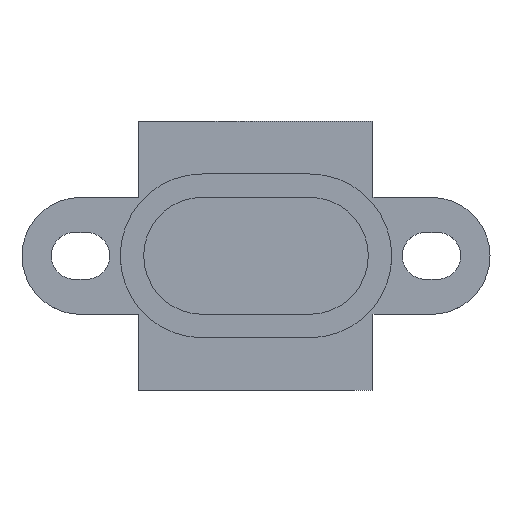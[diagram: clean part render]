
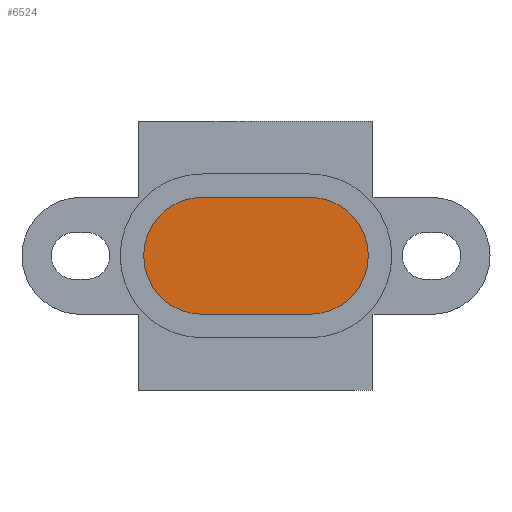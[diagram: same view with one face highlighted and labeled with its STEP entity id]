
A CAD part, top view. The second image highlights one B-rep face of the part: STEP entity #6524.
In plain terms, the highlighted planar face has unit normal (0, 0, 1).
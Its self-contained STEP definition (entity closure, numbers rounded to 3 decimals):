
#147 = DIRECTION ( 'NONE',  ( 0., 0., 1. ) ) ;
#462 = ORIENTED_EDGE ( 'NONE', *, *, #3592, .T. ) ;
#493 = AXIS2_PLACEMENT_3D ( 'NONE', #1125, #4269, #5606 ) ;
#797 = ORIENTED_EDGE ( 'NONE', *, *, #5647, .T. ) ;
#1083 = AXIS2_PLACEMENT_3D ( 'NONE', #6590, #4633, #2702 ) ;
#1125 = CARTESIAN_POINT ( 'NONE',  ( 2.3, 0., 3.2 ) ) ;
#1524 = ORIENTED_EDGE ( 'NONE', *, *, #6102, .T. ) ;
#1720 = CARTESIAN_POINT ( 'NONE',  ( -2.3, -2.5, 3.2 ) ) ;
#1721 = VERTEX_POINT ( 'NONE', #7974 ) ;
#1773 = CARTESIAN_POINT ( 'NONE',  ( 2.3, 0., 3.2 ) ) ;
#2355 = DIRECTION ( 'NONE',  ( 1., 0., 0. ) ) ;
#2448 = CARTESIAN_POINT ( 'NONE',  ( 2.3, 2.5, 3.2 ) ) ;
#2541 = CARTESIAN_POINT ( 'NONE',  ( -2.3, -2.5, 3.2 ) ) ;
#2550 = CARTESIAN_POINT ( 'NONE',  ( -2.3, 0., 3.2 ) ) ;
#2614 = VECTOR ( 'NONE', #6054, 1000. ) ;
#2702 = DIRECTION ( 'NONE',  ( 1., 0., 0. ) ) ;
#2790 = CARTESIAN_POINT ( 'NONE',  ( -2.3, 2.5, 3.2 ) ) ;
#2823 = LINE ( 'NONE', #3524, #6910 ) ;
#2898 = EDGE_CURVE ( 'NONE', #4573, #5867, #2823, .T. ) ;
#3113 = VERTEX_POINT ( 'NONE', #2541 ) ;
#3115 = FACE_OUTER_BOUND ( 'NONE', #5679, .T. ) ;
#3349 = CIRCLE ( 'NONE', #5965, 2.5 ) ;
#3524 = CARTESIAN_POINT ( 'NONE',  ( 2.3, 2.5, 3.2 ) ) ;
#3592 = EDGE_CURVE ( 'NONE', #3113, #4822, #7728, .T. ) ;
#3895 = ORIENTED_EDGE ( 'NONE', *, *, #6438, .T. ) ;
#4269 = DIRECTION ( 'NONE',  ( 0., 0., 1. ) ) ;
#4573 = VERTEX_POINT ( 'NONE', #2448 ) ;
#4633 = DIRECTION ( 'NONE',  ( 0., 0., 1. ) ) ;
#4822 = VERTEX_POINT ( 'NONE', #6673 ) ;
#4923 = DIRECTION ( 'NONE',  ( 0., 0., 1. ) ) ;
#5517 = CIRCLE ( 'NONE', #1083, 2.5 ) ;
#5606 = DIRECTION ( 'NONE',  ( 1., 0., 0. ) ) ;
#5647 = EDGE_CURVE ( 'NONE', #5867, #1721, #5517, .T. ) ;
#5679 = EDGE_LOOP ( 'NONE', ( #3895, #7198, #797, #1524, #462 ) ) ;
#5867 = VERTEX_POINT ( 'NONE', #2790 ) ;
#5965 = AXIS2_PLACEMENT_3D ( 'NONE', #2550, #147, #7576 ) ;
#6054 = DIRECTION ( 'NONE',  ( 1., 0., 0. ) ) ;
#6102 = EDGE_CURVE ( 'NONE', #1721, #3113, #3349, .T. ) ;
#6438 = EDGE_CURVE ( 'NONE', #4822, #4573, #6755, .T. ) ;
#6524 = ADVANCED_FACE ( 'NONE', ( #3115 ), #6722, .T. ) ;
#6590 = CARTESIAN_POINT ( 'NONE',  ( -2.3, 0., 3.2 ) ) ;
#6612 = AXIS2_PLACEMENT_3D ( 'NONE', #1773, #4923, #2355 ) ;
#6673 = CARTESIAN_POINT ( 'NONE',  ( 2.3, -2.5, 3.2 ) ) ;
#6722 = PLANE ( 'NONE',  #493 ) ;
#6755 = CIRCLE ( 'NONE', #6612, 2.5 ) ;
#6910 = VECTOR ( 'NONE', #7828, 1000. ) ;
#7198 = ORIENTED_EDGE ( 'NONE', *, *, #2898, .T. ) ;
#7576 = DIRECTION ( 'NONE',  ( 1., 0., 0. ) ) ;
#7728 = LINE ( 'NONE', #1720, #2614 ) ;
#7828 = DIRECTION ( 'NONE',  ( -1., 0., 0. ) ) ;
#7974 = CARTESIAN_POINT ( 'NONE',  ( -4.8, 0., 3.2 ) ) ;
